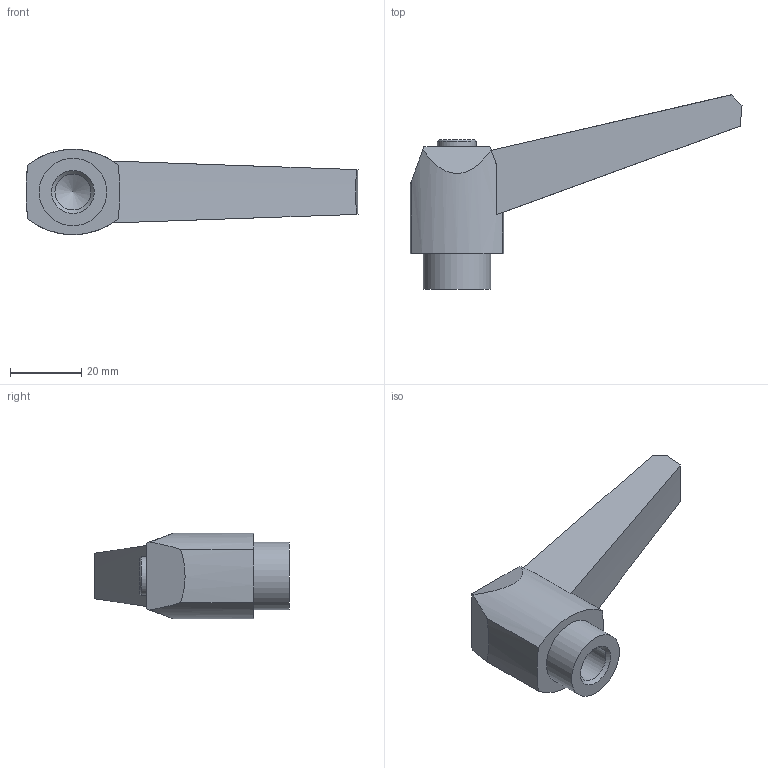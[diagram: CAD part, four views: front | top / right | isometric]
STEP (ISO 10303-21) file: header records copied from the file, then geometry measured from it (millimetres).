
FILE_DESCRIPTION( ( 'STEP AP203' ), '1' );
FILE_NAME( 'C:/Temp/Ganter_Step_05_03_2020/data/2_1/gn_500/gn_500_mb/Adjustable hand lever GN 500-80-M12-SW.stp', '2020-03-05T11:26:29', ( 'License CC BY-ND 4.0' ), ( 'CADENAS' ), ' ', 'PARTsolutions', ' ' );
FILE_SCHEMA( ( 'CONFIG_CONTROL_DESIGN' ) );
Length unit declared in the file: millimetre
Products named in the file (1): _Adjustable hand lever GN 500-80-M12-SW
Bounding box: 93.3 x 54.58 x 24 mm (x, y, z)
Volume: 31276.4 mm3; surface area: 8443.6 mm2
Topology: 1 solids, 1 shells, 24 faces, 58 edges, 38 vertices
Faces by surface type: plane 10, cone 7, cylinder 7
Full cylindrical faces by diameter (mm): 10.106 x1, 11 x1, 19 x1
Entity records: 713 total; most frequent: CARTESIAN_POINT 125, DIRECTION 118, ORIENTED_EDGE 100, EDGE_CURVE 50, AXIS2_PLACEMENT_3D 47, VERTEX_POINT 37, EDGE_LOOP 32, FACE_OUTER_BOUND 27
